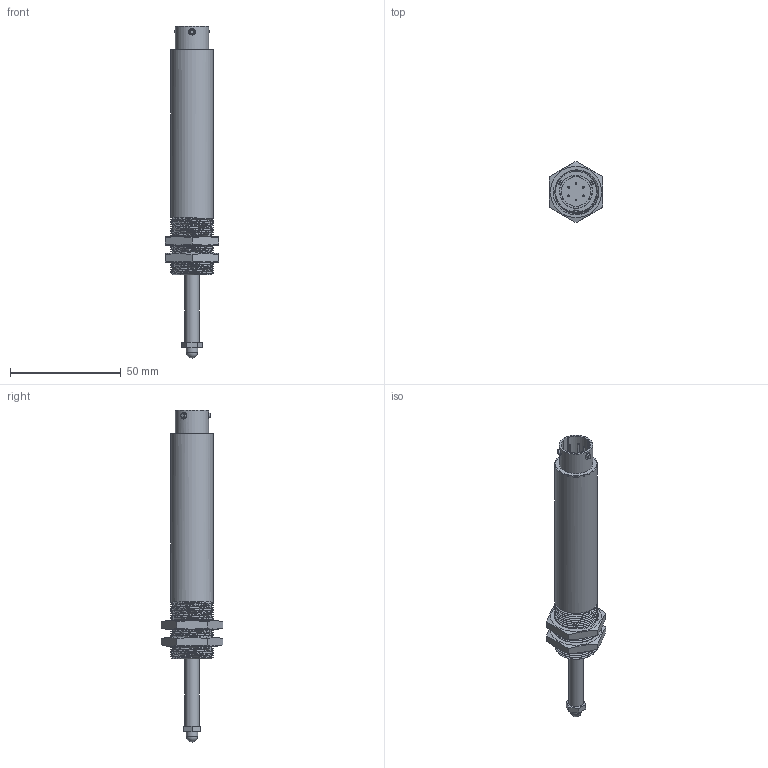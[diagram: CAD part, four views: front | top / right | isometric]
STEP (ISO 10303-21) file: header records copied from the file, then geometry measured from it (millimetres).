
FILE_DESCRIPTION(/* description */ (''),/* implementation_level */ '2;1');
FILE_NAME(/* name */ 'ILPS-18S-025-A-02-YY-Z.stp',/* time_stamp */ '2026-01-27T15:12:43-05:00',/* author */ ('wingm'),/* organization */ (''),/* preprocessor_version */ 'ST-DEVELOPER v20.1',/* originating_system */ 'Autodesk Inventor 2026',/* authorisation */ '');
FILE_SCHEMA (('AUTOMOTIVE_DESIGN { 1 0 10303 214 3 1 1 }'));
Length unit declared in the file: inch
Products named in the file (8): Assembly1; Body; End Cap; Shaft; Lining; PT02-10; Hex Nut; #9540
Assembly tree (8 placements, depth 2):
  Assembly1
    Body
    End Cap
    Shaft
    Lining
    PT02-10
    Hex Nut  x2
    #9540
Bounding box: 24 x 27.71 x 149.86 mm (x, y, z)
Volume: 9432.9 mm3; surface area: 19813.6 mm2
Topology: 15 solids, 15 shells, 168 faces, 364 edges, 242 vertices
Faces by surface type: plane 75, cylinder 69, cone 10, bspline 10, torus 3, sphere 1
Full cylindrical faces by diameter (mm): 0.762 x6, 1.905 x1, 2.032 x3, 2.845 x3, 3.048 x3, 5.08 x1, 6.35 x2, 6.858 x2, 13.208 x1, 14.986 x1, 17.069 x3, 18.415 x2, 19.05 x28
Entity records: 9522 total; most frequent: CARTESIAN_POINT 6001, ORIENTED_EDGE 632, DIRECTION 630, EDGE_CURVE 316, AXIS2_PLACEMENT_3D 249, VERTEX_POINT 211, EDGE_LOOP 171, FACE_OUTER_BOUND 149
